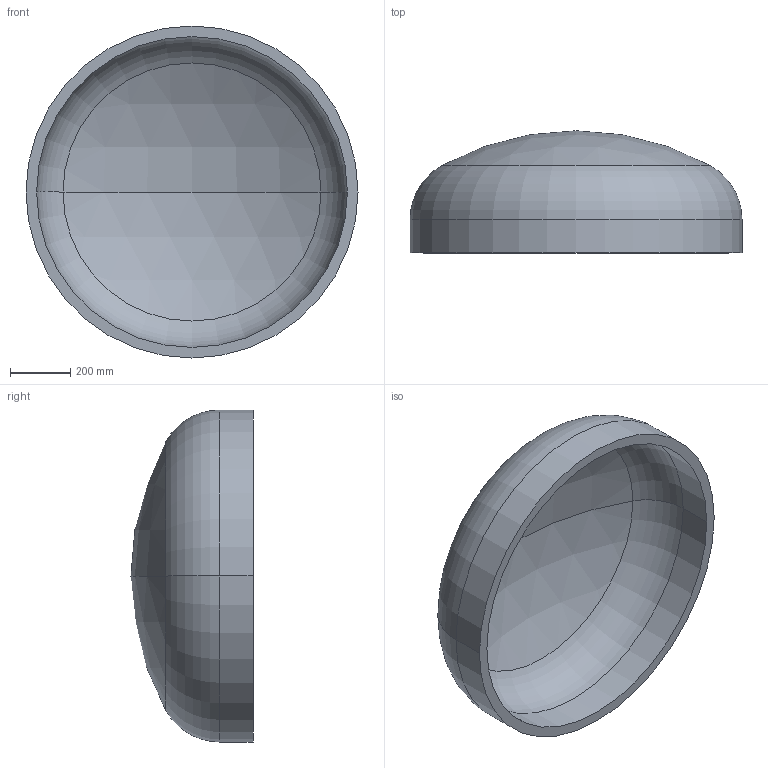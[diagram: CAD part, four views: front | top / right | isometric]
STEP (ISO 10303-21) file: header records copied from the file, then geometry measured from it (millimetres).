
FILE_DESCRIPTION (( 'STEP AP203' ), '1' );
FILE_NAME ('DIN 28013 Korbbogenform_-_Boden DIN 28013 - 1100 x 110 - I - s=35.step', '2016-07-01T09:06:28', ( '' ), ( '' ), 'SwSTEP 2.0', 'SolidWorks 2013', '' );
FILE_SCHEMA (( 'CONFIG_CONTROL_DESIGN' ));
Length unit declared in the file: millimetre
Products named in the file (1): DIN 28013 Korbbogenform_-_Boden DIN 28013 - 1100 x 110 - I - s=35
Bounding box: 1100 x 404.46 x 1100 mm (x, y, z)
Volume: 57106759.8 mm3; surface area: 3382911.1 mm2
Topology: 1 solids, 1 shells, 13 faces, 24 edges, 14 vertices
Faces by surface type: torus 4, cylinder 4, sphere 4, plane 1
Entity records: 407 total; most frequent: DIRECTION 72, CARTESIAN_POINT 52, ORIENTED_EDGE 48, AXIS2_PLACEMENT_3D 34, EDGE_CURVE 24, CIRCLE 20, VERTEX_POINT 14, EDGE_LOOP 14
